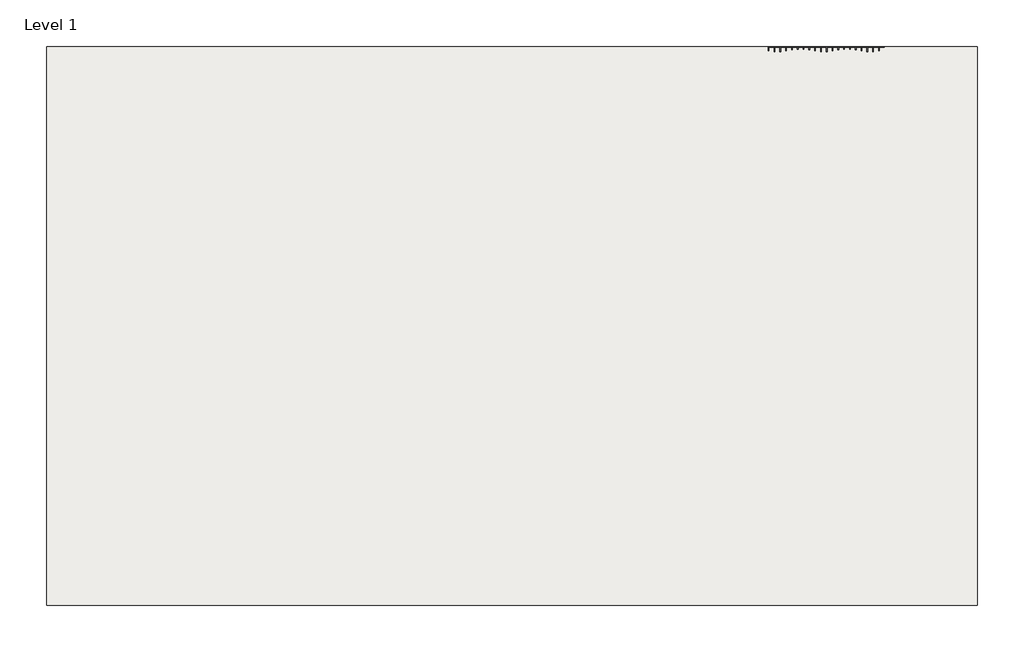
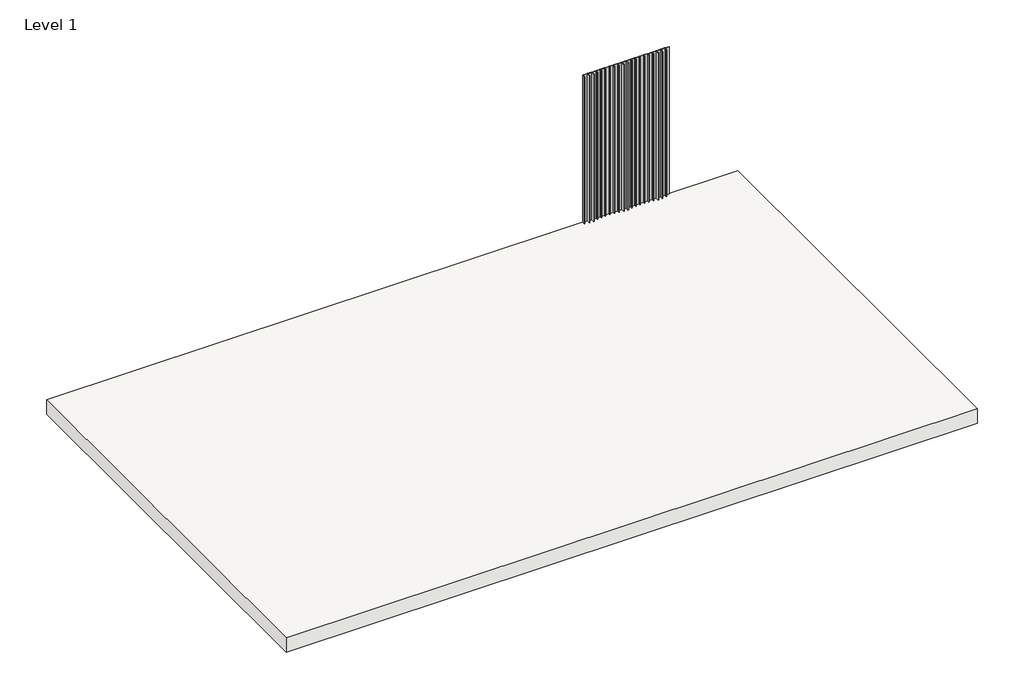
# One storey: 20 proxies, 1 slab.
"""IFC4 building model written with IfcOpenShell, lengths in millimetres."""

from ifc_helpers import new_model, si_unit, frame, origin, place, context, project, spatial, polyline, outline, extrude, transform, mapped, element, save
from components import specialty_equipment_6ce5719f, specialty_equipment_f8b0217f, specialty_equipment_b474212d, specialty_equipment_e1464342

model = new_model("IFC4")

# Units and contexts
model_context = context("Model", 3, world=origin())
ifc_project = project(units=[si_unit("LENGTHUNIT", "METRE", prefix="MILLI")], contexts=[model_context])

# Site, building, storey
site = spatial("IfcSite", under=ifc_project)
building = spatial("IfcBuilding", under=site)
storey = spatial("IfcBuildingStorey", under=building, Name="Level 1", Elevation=0.0)

# Proxies
placement = place(None, origin())
specialty_equipment_shape = specialty_equipment_6ce5719f(model_context)
element("IfcBuildingElementProxy", 1, Name="Wall-Panel-Kirei-Pulse_Fins : Pulse_2.75", ObjectType="Wall-Panel-Kirei-Pulse_Fins : Pulse_2.75", at=placement, inside=storey, context=model_context, shape_type="MappedRepresentation", body=[
    mapped(specialty_equipment_shape, transform((128.7371172, 6040.5236992, 1371.6), x_axis=(1.0, 0.0, 0.0), y_axis=(0.0, 0.0, 1.0), z_axis=(0.0, -1.0, 0.0))),
])
element("IfcBuildingElementProxy", 2, Name="Wall-Panel-Kirei-Pulse_Fins : Pulse_2.75", ObjectType="Wall-Panel-Kirei-Pulse_Fins : Pulse_2.75", at=placement, inside=storey, context=model_context, shape_type="MappedRepresentation", body=[
    mapped(specialty_equipment_shape, transform((660.7480547, 6040.5236992, 1371.6), x_axis=(1.0, 0.0, 0.0), y_axis=(0.0, 0.0, 1.0), z_axis=(0.0, -1.0, 0.0))),
])
element("IfcBuildingElementProxy", 3, Name="Wall-Panel-Kirei-Pulse_Fins : Pulse_2.75", ObjectType="Wall-Panel-Kirei-Pulse_Fins : Pulse_2.75", at=placement, inside=storey, context=model_context, shape_type="MappedRepresentation", body=[
    mapped(specialty_equipment_shape, transform((736.7496172, 6040.5236992, 1371.6), x_axis=(1.0, 0.0, 0.0), y_axis=(0.0, 0.0, 1.0), z_axis=(0.0, -1.0, 0.0))),
])
specialty_equipment_2_shape = specialty_equipment_f8b0217f(model_context)
element("IfcBuildingElementProxy", 4, Name="Wall-Panel-Kirei-Pulse_Fins : Pulse_2.125", ObjectType="Wall-Panel-Kirei-Pulse_Fins : Pulse_2.125", at=placement, inside=storey, context=model_context, shape_type="MappedRepresentation", body=[
    mapped(specialty_equipment_2_shape, transform((204.7386797, 6040.5236992, 1371.6), x_axis=(1.0, 0.0, 0.0), y_axis=(0.0, 0.0, 1.0), z_axis=(0.0, -1.0, 0.0))),
])
element("IfcBuildingElementProxy", 5, Name="Wall-Panel-Kirei-Pulse_Fins : Pulse_2.125", ObjectType="Wall-Panel-Kirei-Pulse_Fins : Pulse_2.125", at=placement, inside=storey, context=model_context, shape_type="MappedRepresentation", body=[
    mapped(specialty_equipment_2_shape, transform((584.7464922, 6040.5236992, 1371.6), x_axis=(1.0, 0.0, 0.0), y_axis=(0.0, 0.0, 1.0), z_axis=(0.0, -1.0, 0.0))),
])
element("IfcBuildingElementProxy", 6, Name="Wall-Panel-Kirei-Pulse_Fins : Pulse_2.125", ObjectType="Wall-Panel-Kirei-Pulse_Fins : Pulse_2.125", at=placement, inside=storey, context=model_context, shape_type="MappedRepresentation", body=[
    mapped(specialty_equipment_2_shape, transform((812.7511797, 6040.5236992, 1371.6), x_axis=(1.0, 0.0, 0.0), y_axis=(0.0, 0.0, 1.0), z_axis=(0.0, -1.0, 0.0))),
])
specialty_equipment_3_shape = specialty_equipment_b474212d(model_context)
element("IfcBuildingElementProxy", 7, Name="Wall-Panel-Kirei-Pulse_Fins : Pulse_1.75", ObjectType="Wall-Panel-Kirei-Pulse_Fins : Pulse_1.75", at=placement, inside=storey, context=model_context, shape_type="MappedRepresentation", body=[
    mapped(specialty_equipment_3_shape, transform((280.7402422, 6040.5236992, 1371.6), x_axis=(1.0, 0.0, 0.0), y_axis=(0.0, 0.0, 1.0), z_axis=(0.0, -1.0, 0.0))),
])
element("IfcBuildingElementProxy", 8, Name="Wall-Panel-Kirei-Pulse_Fins : Pulse_1.75", ObjectType="Wall-Panel-Kirei-Pulse_Fins : Pulse_1.75", at=placement, inside=storey, context=model_context, shape_type="MappedRepresentation", body=[
    mapped(specialty_equipment_3_shape, transform((508.7449297, 6040.5236992, 1371.6), x_axis=(1.0, 0.0, 0.0), y_axis=(0.0, 0.0, 1.0), z_axis=(0.0, -1.0, 0.0))),
])
specialty_equipment_4_shape = specialty_equipment_e1464342(model_context)
element("IfcBuildingElementProxy", 9, Name="Wall-Panel-Kirei-Pulse_Fins : Pulse_1.5", ObjectType="Wall-Panel-Kirei-Pulse_Fins : Pulse_1.5", at=placement, inside=storey, context=model_context, shape_type="MappedRepresentation", body=[
    mapped(specialty_equipment_4_shape, transform((356.7418047, 6040.5236992, 1371.6), x_axis=(1.0, 0.0, 0.0), y_axis=(0.0, 0.0, 1.0), z_axis=(0.0, -1.0, 0.0))),
])
element("IfcBuildingElementProxy", 10, Name="Wall-Panel-Kirei-Pulse_Fins : Pulse_1.5", ObjectType="Wall-Panel-Kirei-Pulse_Fins : Pulse_1.5", at=placement, inside=storey, context=model_context, shape_type="MappedRepresentation", body=[
    mapped(specialty_equipment_4_shape, transform((432.7433672, 6040.5236992, 1371.6), x_axis=(1.0, 0.0, 0.0), y_axis=(0.0, 0.0, 1.0), z_axis=(0.0, -1.0, 0.0))),
])
element("IfcBuildingElementProxy", 11, Name="Wall-Panel-Kirei-Pulse_Fins : Pulse_2.125", ObjectType="Wall-Panel-Kirei-Pulse_Fins : Pulse_2.125", at=placement, inside=storey, context=model_context, shape_type="MappedRepresentation", body=[
    mapped(specialty_equipment_2_shape, transform((-631.2785078, 6040.5236992, 1371.6), x_axis=(1.0, 0.0, 0.0), y_axis=(0.0, 0.0, 1.0), z_axis=(0.0, -1.0, 0.0))),
])
element("IfcBuildingElementProxy", 12, Name="Wall-Panel-Kirei-Pulse_Fins : Pulse_2.125", ObjectType="Wall-Panel-Kirei-Pulse_Fins : Pulse_2.125", at=placement, inside=storey, context=model_context, shape_type="MappedRepresentation", body=[
    mapped(specialty_equipment_2_shape, transform((-403.2738203, 6040.5236992, 1371.6), x_axis=(1.0, 0.0, 0.0), y_axis=(0.0, 0.0, 1.0), z_axis=(0.0, -1.0, 0.0))),
])
element("IfcBuildingElementProxy", 13, Name="Wall-Panel-Kirei-Pulse_Fins : Pulse_2.125", ObjectType="Wall-Panel-Kirei-Pulse_Fins : Pulse_2.125", at=placement, inside=storey, context=model_context, shape_type="MappedRepresentation", body=[
    mapped(specialty_equipment_2_shape, transform((-23.2660078, 6040.5236992, 1371.6), x_axis=(1.0, 0.0, 0.0), y_axis=(0.0, 0.0, 1.0), z_axis=(0.0, -1.0, 0.0))),
])
element("IfcBuildingElementProxy", 14, Name="Wall-Panel-Kirei-Pulse_Fins : Pulse_2.75", ObjectType="Wall-Panel-Kirei-Pulse_Fins : Pulse_2.75", at=placement, inside=storey, context=model_context, shape_type="MappedRepresentation", body=[
    mapped(specialty_equipment_shape, transform((-555.2769453, 6040.5236992, 1371.6), x_axis=(1.0, 0.0, 0.0), y_axis=(0.0, 0.0, 1.0), z_axis=(0.0, -1.0, 0.0))),
])
element("IfcBuildingElementProxy", 15, Name="Wall-Panel-Kirei-Pulse_Fins : Pulse_2.75", ObjectType="Wall-Panel-Kirei-Pulse_Fins : Pulse_2.75", at=placement, inside=storey, context=model_context, shape_type="MappedRepresentation", body=[
    mapped(specialty_equipment_shape, transform((-479.2753828, 6040.5236992, 1371.6), x_axis=(1.0, 0.0, 0.0), y_axis=(0.0, 0.0, 1.0), z_axis=(0.0, -1.0, 0.0))),
])
element("IfcBuildingElementProxy", 16, Name="Wall-Panel-Kirei-Pulse_Fins : Pulse_2.75", ObjectType="Wall-Panel-Kirei-Pulse_Fins : Pulse_2.75", at=placement, inside=storey, context=model_context, shape_type="MappedRepresentation", body=[
    mapped(specialty_equipment_shape, transform((52.7355547, 6040.5236992, 1371.6), x_axis=(1.0, 0.0, 0.0), y_axis=(0.0, 0.0, 1.0), z_axis=(0.0, -1.0, 0.0))),
])
element("IfcBuildingElementProxy", 17, Name="Wall-Panel-Kirei-Pulse_Fins : Pulse_1.75", ObjectType="Wall-Panel-Kirei-Pulse_Fins : Pulse_1.75", at=placement, inside=storey, context=model_context, shape_type="MappedRepresentation", body=[
    mapped(specialty_equipment_3_shape, transform((-327.2722578, 6040.5236992, 1371.6), x_axis=(1.0, 0.0, 0.0), y_axis=(0.0, 0.0, 1.0), z_axis=(0.0, -1.0, 0.0))),
])
element("IfcBuildingElementProxy", 18, Name="Wall-Panel-Kirei-Pulse_Fins : Pulse_1.75", ObjectType="Wall-Panel-Kirei-Pulse_Fins : Pulse_1.75", at=placement, inside=storey, context=model_context, shape_type="MappedRepresentation", body=[
    mapped(specialty_equipment_3_shape, transform((-99.2675703, 6040.5236992, 1371.6), x_axis=(1.0, 0.0, 0.0), y_axis=(0.0, 0.0, 1.0), z_axis=(0.0, -1.0, 0.0))),
])
element("IfcBuildingElementProxy", 19, Name="Wall-Panel-Kirei-Pulse_Fins : Pulse_1.5", ObjectType="Wall-Panel-Kirei-Pulse_Fins : Pulse_1.5", at=placement, inside=storey, context=model_context, shape_type="MappedRepresentation", body=[
    mapped(specialty_equipment_4_shape, transform((-251.2706953, 6040.5236992, 1371.6), x_axis=(1.0, 0.0, 0.0), y_axis=(0.0, 0.0, 1.0), z_axis=(0.0, -1.0, 0.0))),
])
element("IfcBuildingElementProxy", 20, Name="Wall-Panel-Kirei-Pulse_Fins : Pulse_1.5", ObjectType="Wall-Panel-Kirei-Pulse_Fins : Pulse_1.5", at=placement, inside=storey, context=model_context, shape_type="MappedRepresentation", body=[
    mapped(specialty_equipment_4_shape, transform((-175.2691328, 6040.5236992, 1371.6), x_axis=(1.0, 0.0, 0.0), y_axis=(0.0, 0.0, 1.0), z_axis=(0.0, -1.0, 0.0))),
])

# Slab
element("IfcSlab", 21, ObjectType="Wood Joist 10\" - Wood Finish", at=placement, inside=storey, context=model_context, shape_type="SweptSolid", body=[
    extrude(outline(polyline([(-10693.6472578, -1274.6763008), (-10693.6472578, 6040.5236992), (1498.3527422, 6040.5236992), (1498.3527422, -1274.6763008), (-10693.6472578, -1274.6763008)])), frame((0.0, 0.0, -273.05), z_axis=(0.0, 0.0, 1.0), x_axis=(1.0, 0.0, 0.0)), (0.0, 0.0, 1.0), 273.05),
])

save(model, "model.ifc")
